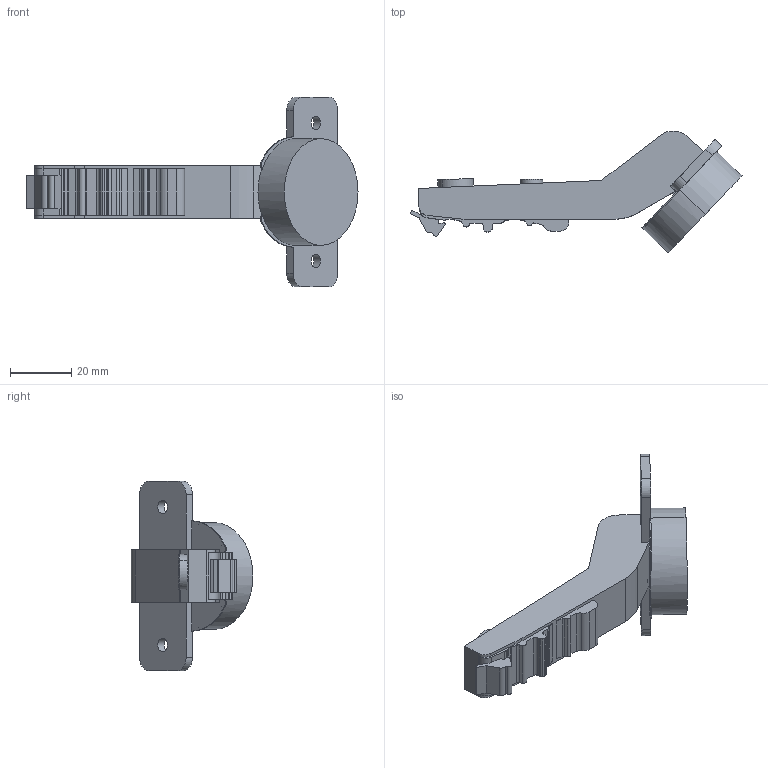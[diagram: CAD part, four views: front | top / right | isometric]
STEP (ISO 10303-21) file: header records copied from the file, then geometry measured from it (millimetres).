
FILE_DESCRIPTION (( 'STEP AP214' ), '1' );
FILE_NAME ('C82E675FA-Close.STEP', '2025-07-21T06:51:56', ( '微软用户' ), ( '微软中国' ), 'SwSTEP 2.0', 'SolidWorks 2021', '' );
FILE_SCHEMA (( 'AUTOMOTIVE_DESIGN' ));
Length unit declared in the file: millimetre
Products named in the file (1): C82E675FA-Close
Bounding box: 108.33 x 39.78 x 61.96 mm (x, y, z)
Volume: 37334.6 mm3; surface area: 11432 mm2
Topology: 1 solids, 1 shells, 123 faces, 354 edges, 236 vertices
Faces by surface type: plane 64, cylinder 59
Entity records: 4112 total; most frequent: CARTESIAN_POINT 732, DIRECTION 716, ORIENTED_EDGE 708, EDGE_CURVE 354, AXIS2_PLACEMENT_3D 244, VERTEX_POINT 236, LINE 228, VECTOR 228
